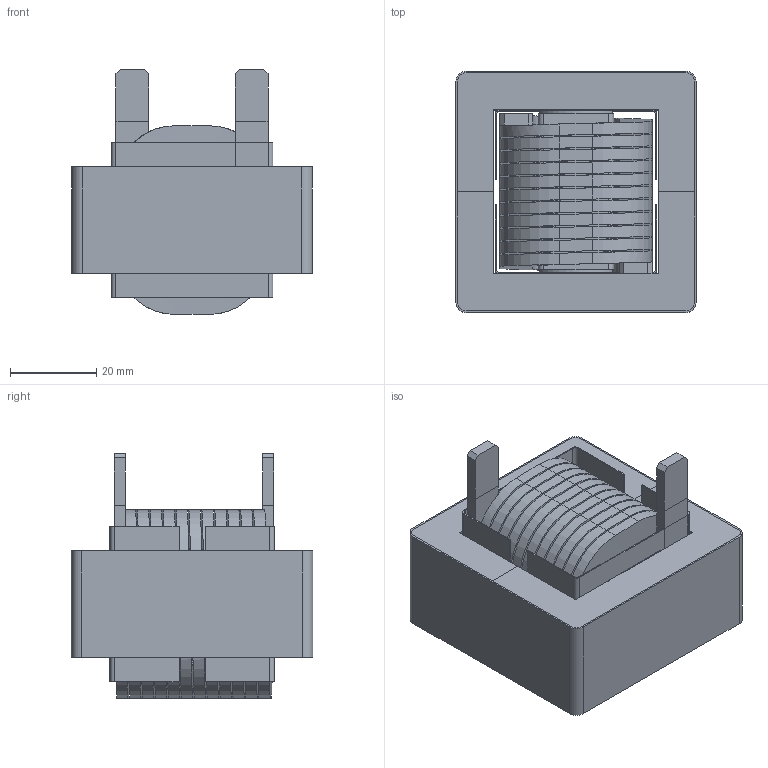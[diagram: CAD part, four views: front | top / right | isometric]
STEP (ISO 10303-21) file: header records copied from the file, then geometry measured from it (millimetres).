
FILE_DESCRIPTION (( 'STEP AP214' ), '1' );
FILE_NAME ('LCES28B6-300M-170AH.STEP', '2021-05-08T11:12:59', ( '' ), ( '' ), 'SwSTEP 2.0', 'SolidWorks 2015', '' );
FILE_SCHEMA (( 'AUTOMOTIVE_DESIGN' ));
Length unit declared in the file: millimetre
Products named in the file (6): HELICAL COIL; SIDE MYLAR; WRAPPER; LCES28B6-300M-170AH; CENTER MYLAR; E CORE
Assembly tree (7 placements, depth 2):
  LCES28B6-300M-170AH
    HELICAL COIL
    E CORE  x2
    SIDE MYLAR  x2
    CENTER MYLAR
    WRAPPER
Bounding box: 55.62 x 55.9 x 56.7 mm (x, y, z)
Volume: 78820.9 mm3; surface area: 67653.5 mm2
Topology: 9 solids, 9 shells, 470 faces, 1314 edges, 876 vertices
Faces by surface type: plane 287, cylinder 124, bspline 59
Entity records: 22926 total; most frequent: CARTESIAN_POINT 12276, ORIENTED_EDGE 2448, DIRECTION 1552, EDGE_CURVE 1224, VERTEX_POINT 816, LINE 680, VECTOR 680, B_SPLINE_CURVE_WITH_KNOTS 492
